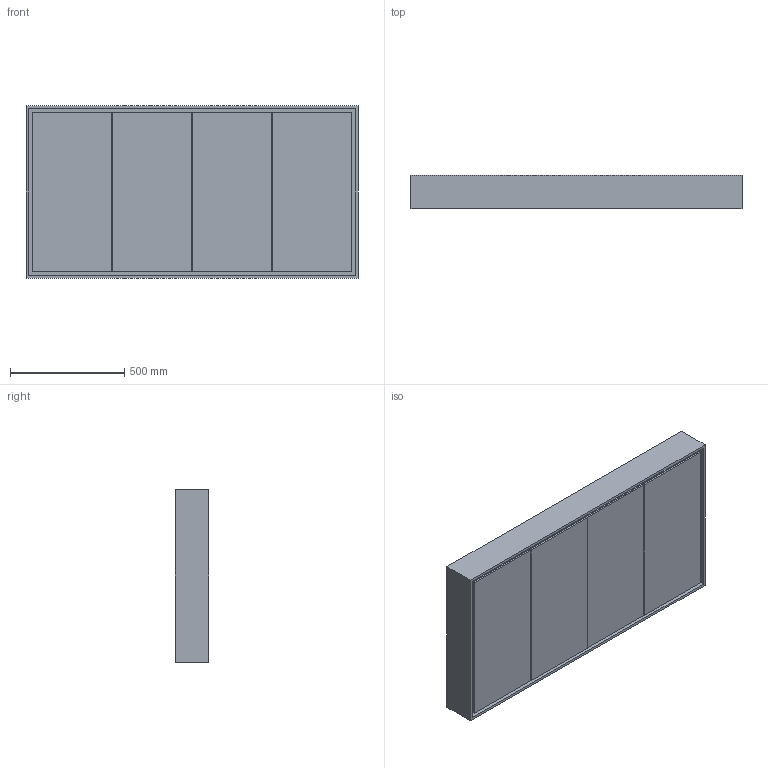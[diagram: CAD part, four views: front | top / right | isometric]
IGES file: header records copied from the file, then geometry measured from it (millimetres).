
Global section: file name: \\Archi-NAS\Comune\X GIOVANNI\SPECCHI\MIRR REVERSE LED\MIRR REVERSE LED_HORIZONTAL.igs; native system: Rhinoceros ( Feb 23 2021 ); preprocessor: Trout Lake IGES 012 Feb 23 2021; date: 230608.080317; units: millimetre
Bounding box: 1454 x 145 x 754 mm (x, y, z)
Surface area: 8483040 mm2 (no closed solid volume)
Topology: 0 solids, 0 shells, 81 faces, 340 edges, 340 vertices
Faces by surface type: bspline 81
